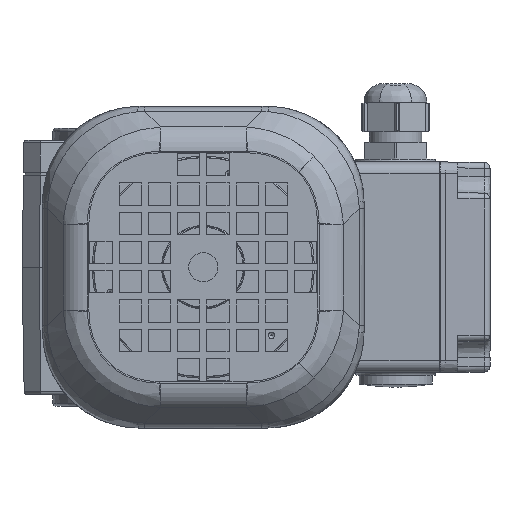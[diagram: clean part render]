
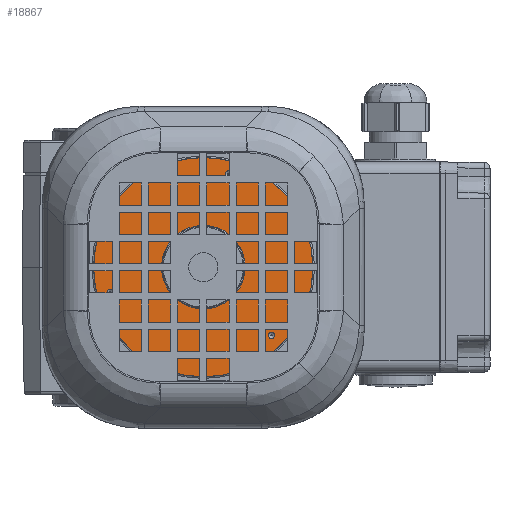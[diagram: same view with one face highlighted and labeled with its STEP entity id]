
A CAD part, left-side view. The second image highlights one B-rep face of the part: STEP entity #18867.
In plain terms, the highlighted planar face has unit normal (-1, 0, 0) as drawn and (0, 0, 1) by its records, which use the part's own axes.
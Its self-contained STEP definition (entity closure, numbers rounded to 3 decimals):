
#640 = ORIENTED_EDGE ( 'NONE', *, *, #35268, .T. ) ;
#1098 = EDGE_CURVE ( 'NONE', #40092, #40092, #25553, .T. ) ;
#1441 = EDGE_CURVE ( 'NONE', #11444, #11444, #38421, .T. ) ;
#2829 = EDGE_LOOP ( 'NONE', ( #10617 ) ) ;
#3202 = AXIS2_PLACEMENT_3D ( 'NONE', #40951, #14839, #49770 ) ;
#3607 = CARTESIAN_POINT ( 'NONE',  ( 9.591, -31.876, 19.3 ) ) ;
#7152 = DIRECTION ( 'NONE',  ( -0.5, -0.866, 0. ) ) ;
#9523 = AXIS2_PLACEMENT_3D ( 'NONE', #56197, #47727, #21931 ) ;
#10061 = ORIENTED_EDGE ( 'NONE', *, *, #1098, .F. ) ;
#10617 = ORIENTED_EDGE ( 'NONE', *, *, #1441, .F. ) ;
#10627 = PLANE ( 'NONE',  #3202 ) ;
#11059 = FACE_BOUND ( 'NONE', #23076, .T. ) ;
#11444 = VERTEX_POINT ( 'NONE', #34717 ) ;
#12095 = VERTEX_POINT ( 'NONE', #16182 ) ;
#14839 = DIRECTION ( 'NONE',  ( 0., 0., 1. ) ) ;
#15045 = CARTESIAN_POINT ( 'NONE',  ( 23.335, 23.335, 19.3 ) ) ;
#15712 = AXIS2_PLACEMENT_3D ( 'NONE', #15045, #45573, #27996 ) ;
#16182 = CARTESIAN_POINT ( 'NONE',  ( 37.5, 0., 19.3 ) ) ;
#16803 = EDGE_LOOP ( 'NONE', ( #640 ) ) ;
#17828 = DIRECTION ( 'NONE',  ( 0., 0., 1. ) ) ;
#18867 = ADVANCED_FACE ( 'NONE', ( #19905, #50683, #45878, #53431, #11059 ), #10627, .T. ) ;
#18891 = VERTEX_POINT ( 'NONE', #3607 ) ;
#19905 = FACE_BOUND ( 'NONE', #22326, .T. ) ;
#20227 = VERTEX_POINT ( 'NONE', #21876 ) ;
#20685 = CARTESIAN_POINT ( 'NONE',  ( -31.876, 8.541, 19.3 ) ) ;
#21876 = CARTESIAN_POINT ( 'NONE',  ( 14.3, 0., 19.3 ) ) ;
#21931 = DIRECTION ( 'NONE',  ( 1., 0., 0. ) ) ;
#22234 = DIRECTION ( 'NONE',  ( 1., 0., 0. ) ) ;
#22326 = EDGE_LOOP ( 'NONE', ( #42672 ) ) ;
#23076 = EDGE_LOOP ( 'NONE', ( #10061 ) ) ;
#25214 = EDGE_LOOP ( 'NONE', ( #45375 ) ) ;
#25553 = CIRCLE ( 'NONE', #25584, 1.05 ) ;
#25584 = AXIS2_PLACEMENT_3D ( 'NONE', #20685, #42072, #7152 ) ;
#27996 = DIRECTION ( 'NONE',  ( -0.5, 0.866, 0. ) ) ;
#30251 = CARTESIAN_POINT ( 'NONE',  ( 8.541, -31.876, 19.3 ) ) ;
#30497 = CARTESIAN_POINT ( 'NONE',  ( -32.401, 7.632, 19.3 ) ) ;
#31757 = CIRCLE ( 'NONE', #49481, 1.05 ) ;
#34717 = CARTESIAN_POINT ( 'NONE',  ( 22.81, 24.244, 19.3 ) ) ;
#35268 = EDGE_CURVE ( 'NONE', #12095, #12095, #44940, .T. ) ;
#38421 = CIRCLE ( 'NONE', #15712, 1.05 ) ;
#38525 = EDGE_CURVE ( 'NONE', #18891, #18891, #31757, .T. ) ;
#40092 = VERTEX_POINT ( 'NONE', #30497 ) ;
#40339 = DIRECTION ( 'NONE',  ( 0., 0., 1. ) ) ;
#40951 = CARTESIAN_POINT ( 'NONE',  ( 0., 0., 19.3 ) ) ;
#42072 = DIRECTION ( 'NONE',  ( 0., 0., 1. ) ) ;
#42277 = CIRCLE ( 'NONE', #9523, 14.3 ) ;
#42672 = ORIENTED_EDGE ( 'NONE', *, *, #43984, .T. ) ;
#43984 = EDGE_CURVE ( 'NONE', #20227, #20227, #42277, .T. ) ;
#44198 = CARTESIAN_POINT ( 'NONE',  ( 0., 0., 19.3 ) ) ;
#44940 = CIRCLE ( 'NONE', #52714, 37.5 ) ;
#45375 = ORIENTED_EDGE ( 'NONE', *, *, #38525, .F. ) ;
#45573 = DIRECTION ( 'NONE',  ( 0., 0., 1. ) ) ;
#45878 = FACE_BOUND ( 'NONE', #25214, .T. ) ;
#47727 = DIRECTION ( 'NONE',  ( 0., 0., -1. ) ) ;
#49481 = AXIS2_PLACEMENT_3D ( 'NONE', #30251, #17828, #52834 ) ;
#49770 = DIRECTION ( 'NONE',  ( 1., 0., 0. ) ) ;
#50683 = FACE_OUTER_BOUND ( 'NONE', #16803, .T. ) ;
#52714 = AXIS2_PLACEMENT_3D ( 'NONE', #44198, #40339, #22234 ) ;
#52834 = DIRECTION ( 'NONE',  ( 1., 0., 0. ) ) ;
#53431 = FACE_BOUND ( 'NONE', #2829, .T. ) ;
#56197 = CARTESIAN_POINT ( 'NONE',  ( 0., 0., 19.3 ) ) ;
